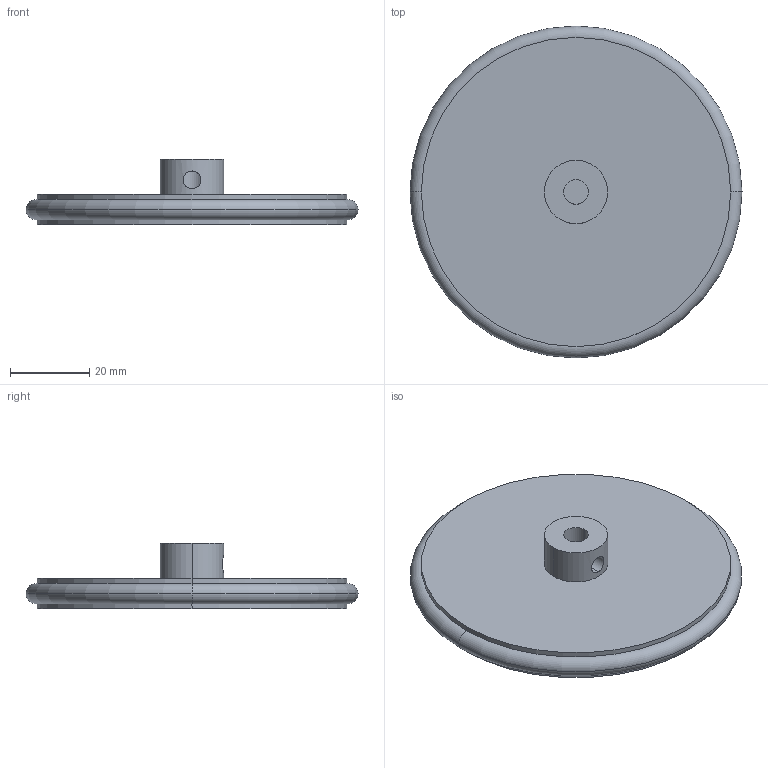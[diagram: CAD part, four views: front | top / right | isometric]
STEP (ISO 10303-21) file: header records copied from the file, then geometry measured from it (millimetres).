
FILE_DESCRIPTION (( 'STEP AP203' ), '1' );
FILE_NAME ('encoder wheel.STEP', '2025-10-13T11:03:01', ( '' ), ( '' ), 'SwSTEP 2.0', 'SolidWorks 2023', '' );
FILE_SCHEMA (( 'CONFIG_CONTROL_DESIGN' ));
Length unit declared in the file: millimetre
Products named in the file (1): encoder wheel
Bounding box: 83.71 x 83.71 x 16.6 mm (x, y, z)
Volume: 40686.4 mm3; surface area: 16839.8 mm2
Topology: 2 solids, 2 shells, 22 faces, 44 edges, 26 vertices
Faces by surface type: cylinder 10, torus 8, plane 4
Entity records: 771 total; most frequent: CARTESIAN_POINT 211, DIRECTION 116, ORIENTED_EDGE 88, AXIS2_PLACEMENT_3D 53, EDGE_CURVE 44, CIRCLE 30, VERTEX_POINT 26, EDGE_LOOP 26
